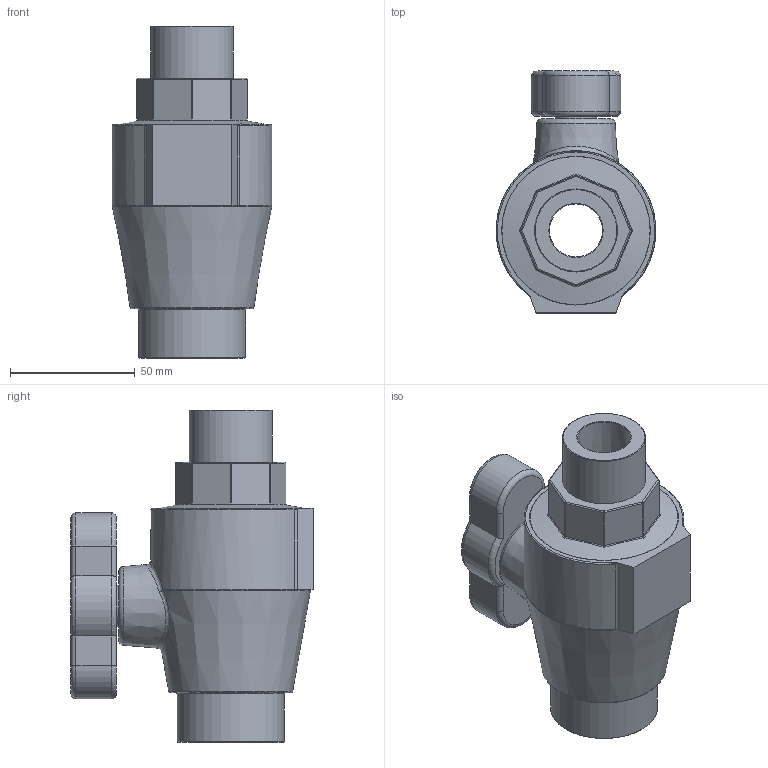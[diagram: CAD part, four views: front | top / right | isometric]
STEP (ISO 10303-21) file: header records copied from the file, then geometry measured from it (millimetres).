
FILE_DESCRIPTION(/* description */ ('PA Ball Valve Female 1'''' x Male 1'''''),/* implementation_level */ '2;1');
FILE_NAME(/* name */ 'C:\Dropbox\99-16-3568-Processing\S1\0370302\03703020S00010_03703020SF0010.stp',/* time_stamp */ '2022-04-18T17:28:21+03:00',/* author */ ('Lenora'),/* organization */ (''),/* preprocessor_version */ 'ST-DEVELOPER v17.2',/* originating_system */ 'Autodesk Inventor 2019',/* authorisation */ '');
FILE_SCHEMA (('AUTOMOTIVE_DESIGN { 1 0 10303 214 3 1 1 }'));
Length unit declared in the file: millimetre
Products named in the file (1): 03703020S00010_03703020SF0010
Bounding box: 63.97 x 97 x 133 mm (x, y, z)
Volume: 269079 mm3; surface area: 44180.7 mm2
Topology: 1 solids, 1 shells, 117 faces, 275 edges, 164 vertices
Faces by surface type: cylinder 36, bspline 26, plane 25, torus 14, cone 8, sphere 8
Full cylindrical faces by diameter (mm): 16.625 x1, 25 x1, 30.291 x1, 33.249 x1, 42.9 x1
Entity records: 4404 total; most frequent: CARTESIAN_POINT 1803, ORIENTED_EDGE 546, DIRECTION 517, EDGE_CURVE 273, AXIS2_PLACEMENT_3D 218, VERTEX_POINT 164, CIRCLE 126, EDGE_LOOP 125
